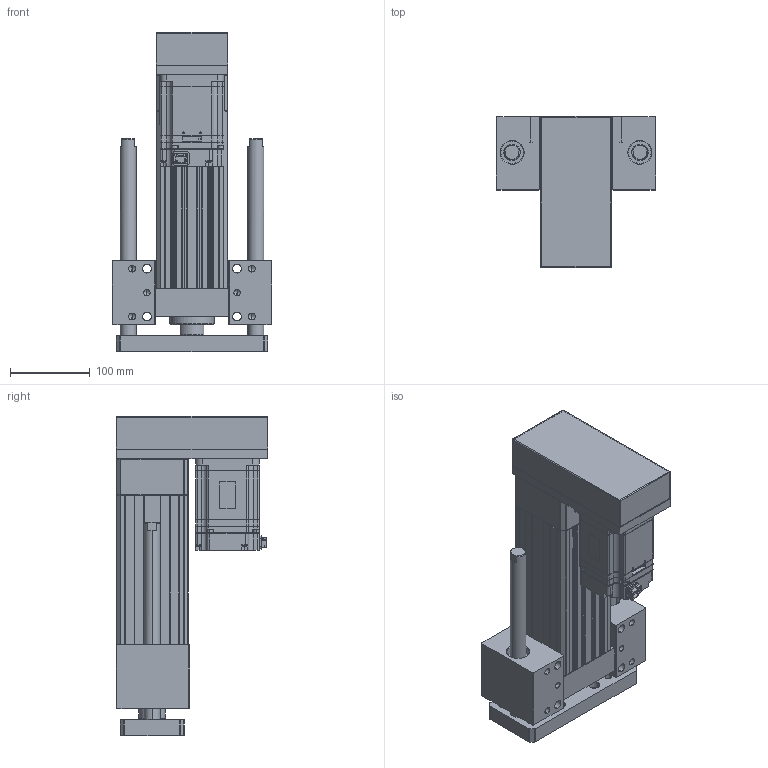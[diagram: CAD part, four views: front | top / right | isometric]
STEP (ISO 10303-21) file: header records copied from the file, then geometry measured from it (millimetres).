
FILE_DESCRIPTION (( 'STEP AP203' ), '1' );
FILE_NAME ('ANS090R-HP100-05(10)(20)-W75.STEP', '2019-03-02T09:31:27', ( 'user' ), ( '' ), 'SwSTEP 2.0', 'SolidWorks 2013', '' );
FILE_SCHEMA (( 'CONFIG_CONTROL_DESIGN' ));
Length unit declared in the file: millimetre
Products named in the file (4): ANS090R HP100 VER2; SGMJV_08A_A21; ANS090 ROD ST100-H; ANS090R-HP100-05(10)(20)-W75
Assembly tree (3 placements, depth 2):
  ANS090R-HP100-05(10)(20)-W75
    ANS090R HP100 VER2
    SGMJV_08A_A21
    ANS090 ROD ST100-H
Bounding box: 200 x 190 x 400 mm (x, y, z)
Volume: 3409667.2 mm3; surface area: 579947.6 mm2
Topology: 3 solids, 3 shells, 1228 faces, 3234 edges, 2090 vertices
Faces by surface type: plane 688, cylinder 434, cone 94, sphere 8, bspline 4
Entity records: 38470 total; most frequent: CARTESIAN_POINT 7180, DIRECTION 6468, ORIENTED_EDGE 6420, EDGE_CURVE 3210, VECTOR 2168, LINE 2168, AXIS2_PLACEMENT_3D 2150, VERTEX_POINT 2090
